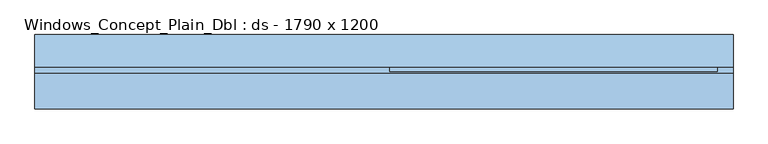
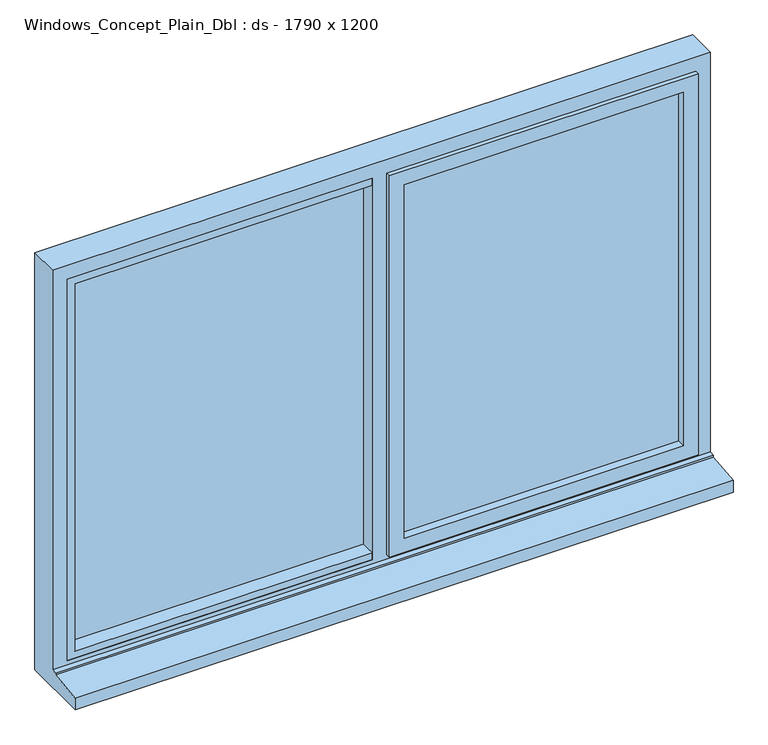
"""IFC4 building model written with IfcOpenShell, lengths in millimetres: window geometry, Windows_Concept_Plain_Dbl : ds - 1790 x 1200."""

from ifc_helpers import new_model, si_unit, frame, origin, place, context, project, spatial, polyline, outline, extrude, faceted_brep, source, transform, mapped, element, save


def windows_concept_plain_dbl_ds_1790_x_1200_d2fe6dab(model_context):
    return source(origin(), model_context, "Body", "SolidModel", [
        extrude(outline(polyline([(540.0, -52.4565678), (540.0, -76.4565678), (-240.0, -76.4565678), (-240.0, -52.4565678), (540.0, -52.4565678)])), frame((0.0, 0.0, 1003.0), z_axis=(0.0, 0.0, 1.0), x_axis=(1.0, 0.0, 0.0)), (0.0, 0.0, 1.0), 1037.0),
        extrude(outline(polyline([(-1140.0, -47.4565678), (-1140.0, -23.4565678), (-300.0, -23.4565678), (-300.0, -47.4565678), (-1140.0, -47.4565678)])), frame((0.0, 0.0, 973.0), z_axis=(0.0, 0.0, 1.0), x_axis=(1.0, 0.0, 0.0)), (0.0, 0.0, 1.0), 1097.0),
        faceted_brep([(610.0, -5.4565678, 2110.0), (610.0, -5.4565678, 910.0), (-1180.0, -5.4565678, 910.0), (-1180.0, -5.4565678, 2110.0), (550.0, -5.4565678, 2050.0), (-252.0, -5.4565678, 2050.0), (-252.0, -5.4565678, 985.0), (550.0, -5.4565678, 985.0), (-310.0, -5.4565678, 2050.0), (-1120.0, -5.4565678, 2050.0), (-1120.0, -5.4565678, 985.0), (-310.0, -5.4565678, 985.0), (-1180.0, -195.9565678, 910.0), (-1180.0, -195.9565678, 943.8088847), (-1180.0, -103.4565678, 954.7449676), (-1180.0, -103.4565678, 959.68767), (-1180.0, -88.4565678, 961.0), (-1180.0, -88.4565678, 2110.0), (610.0, -88.4565678, 961.0), (610.0, -88.4565678, 2110.0), (-1140.0, -88.4565678, 2070.0), (-310.0, -88.4565678, 2070.0), (-310.0, -88.4565678, 973.0), (-1140.0, -88.4565678, 973.0), (-270.0, -88.4565678, 2070.0), (570.0, -88.4565678, 2070.0), (570.0, -88.4565678, 973.0), (-270.0, -88.4565678, 973.0), (-1140.0, -23.4565678, 973.0), (-1140.0, -23.4565678, 2070.0), (-300.0, -23.4565678, 973.0), (-300.0, -23.4565678, 2070.0), (-310.0, -23.4565678, 2050.0), (-310.0, -23.4565678, 985.0), (-1120.0, -23.4565678, 985.0), (-1120.0, -23.4565678, 2050.0), (-270.0, -23.4565678, 2070.0), (-270.0, -23.4565678, 973.0), (570.0, -23.4565678, 973.0), (570.0, -23.4565678, 2070.0), (550.0, -23.4565678, 2050.0), (550.0, -23.4565678, 985.0), (-252.0, -23.4565678, 985.0), (-252.0, -23.4565678, 2050.0), (-300.0, -47.4565678, 2070.0), (-310.0, -47.4565678, 2070.0), (610.0, -103.4565678, 959.68767), (610.0, -103.4565678, 954.7449676), (610.0, -195.9565678, 943.8088847), (610.0, -195.9565678, 910.0), (-300.0, -47.4565678, 973.0), (-310.0, -47.4565678, 973.0)], [[[0, 1, 2, 3], [4, 5, 6, 7], [8, 9, 10, 11]], [[2, 12, 13, 14, 15, 16, 17, 3]], [[16, 18, 19, 17], [20, 21, 22, 23], [24, 25, 26, 27]], [[23, 28, 29, 20]], [[29, 28, 30, 31], [32, 33, 34, 35]], [[36, 37, 38, 39], [40, 41, 42, 43]], [[35, 34, 10, 9]], [[3, 17, 19, 0]], [[25, 24, 36, 39]], [[29, 31, 44, 45, 21, 20]], [[9, 8, 32, 35]], [[40, 43, 5, 4]], [[18, 46, 47, 48, 49, 1, 0, 19]], [[25, 39, 38, 26]], [[4, 7, 41, 40]], [[44, 31, 30, 50]], [[50, 51, 45, 44]], [[51, 22, 21, 45]], [[27, 37, 36, 24]], [[43, 42, 6, 5]], [[8, 11, 33, 32]], [[49, 12, 2, 1]], [[48, 13, 12, 49]], [[47, 14, 13, 48]], [[46, 15, 14, 47]], [[18, 16, 15, 46]], [[26, 38, 37, 27]], [[22, 51, 50, 30, 28, 23]], [[6, 42, 41, 7]], [[33, 11, 10, 34]]]),
        extrude(outline(polyline([(2070.0, -310.0), (2070.0, -1140.0), (973.0, -1140.0), (973.0, -310.0), (993.0, -310.0), (993.0, -1120.0), (2050.0, -1120.0), (2050.0, -310.0), (2070.0, -310.0)])), frame((0.0, -88.4565678, 0.0), z_axis=(0.0, 1.0, 0.0), x_axis=(0.0, 0.0, 1.0)), (0.0, 0.0, 1.0), 41.0),
        faceted_brep([(-270.0, -23.4565678, 2070.0), (-270.0, -23.4565678, 973.0), (-270.0, -100.0035732, 973.0), (-270.0, -100.0035732, 2070.0), (-230.0, -52.4565678, 2030.0), (-230.0, -52.4565678, 1013.0), (-230.0, -23.4565678, 1013.0), (-230.0, -23.4565678, 2030.0), (-240.0, -76.4565678, 2040.0), (-240.0, -76.4565678, 1003.0), (-240.0, -52.4565678, 1003.0), (-240.0, -52.4565678, 2040.0), (-230.0, -100.0035732, 2030.0), (-230.0, -100.0035732, 1013.0), (-230.0, -76.4565678, 1013.0), (-230.0, -76.4565678, 2030.0), (570.0, -23.4565678, 973.0), (570.0, -100.0035732, 973.0), (530.0, -52.4565678, 1013.0), (530.0, -23.4565678, 1013.0), (540.0, -76.4565678, 1003.0), (540.0, -52.4565678, 1003.0), (530.0, -100.0035732, 1013.0), (530.0, -76.4565678, 1013.0), (570.0, -23.4565678, 2070.0), (570.0, -100.0035732, 2070.0), (530.0, -52.4565678, 2030.0), (530.0, -23.4565678, 2030.0), (540.0, -76.4565678, 2040.0), (540.0, -52.4565678, 2040.0), (530.0, -100.0035732, 2030.0), (530.0, -76.4565678, 2030.0)], [[[0, 1, 2, 3]], [[4, 5, 6, 7]], [[8, 9, 10, 11]], [[12, 13, 14, 15]], [[1, 16, 17, 2]], [[5, 18, 19, 6]], [[9, 20, 21, 10]], [[13, 22, 23, 14]], [[16, 24, 25, 17]], [[18, 26, 27, 19]], [[20, 28, 29, 21]], [[22, 30, 31, 23]], [[3, 2, 17, 25], [13, 12, 30, 22]], [[24, 0, 3, 25]], [[1, 0, 24, 16], [7, 6, 19, 27]], [[26, 4, 7, 27]], [[11, 10, 21, 29], [5, 4, 26, 18]], [[28, 8, 11, 29]], [[9, 8, 28, 20], [15, 14, 23, 31]], [[30, 12, 15, 31]]]),
    ])


if __name__ == "__main__":
    model = new_model("IFC4")
    model_context = context("Model", 3, world=origin())
    ifc_project = project(units=[si_unit("LENGTHUNIT", "METRE", prefix="MILLI")], contexts=[model_context])
    site = spatial("IfcSite", under=ifc_project)
    building = spatial("IfcBuilding", under=site)
    placement = place(None, origin())
    windows_concept_plain_dbl_ds_1790_x_1200_shape = windows_concept_plain_dbl_ds_1790_x_1200_d2fe6dab(model_context)
    element("IfcWindow", 1, ObjectType="Windows_Concept_Plain_Dbl : ds - 1790 x 1200", at=placement, inside=building, context=model_context, shape_type="MappedRepresentation", body=[
        mapped(windows_concept_plain_dbl_ds_1790_x_1200_shape, transform((0.0, 0.0, 0.0), x_axis=(1.0, 0.0, 0.0), y_axis=(0.0, 1.0, 0.0), z_axis=(0.0, 0.0, 1.0))),
    ])
    save(model, "model.ifc")
